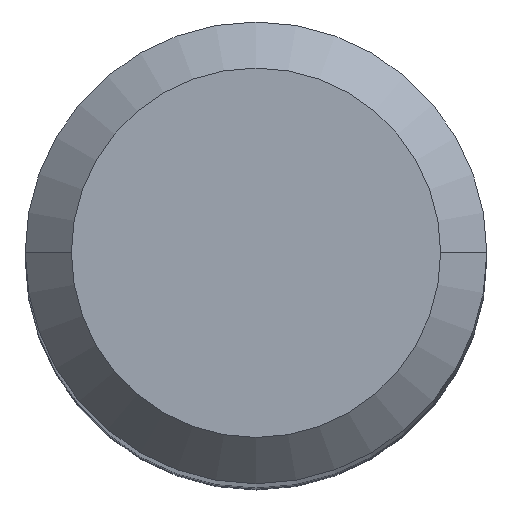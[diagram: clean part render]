
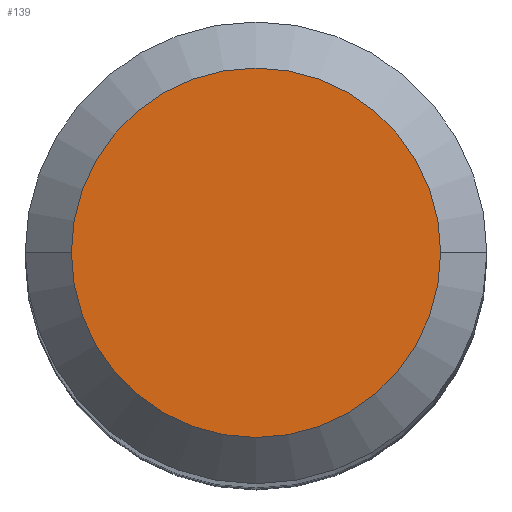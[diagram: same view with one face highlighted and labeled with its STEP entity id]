
A CAD part, top view. The second image highlights one B-rep face of the part: STEP entity #139.
In plain terms, the highlighted planar face has unit normal (0, 0, 1).
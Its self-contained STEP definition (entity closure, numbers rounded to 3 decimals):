
#22 = DIRECTION ( 'NONE',  ( 0., 0., -1. ) ) ;
#33 = ORIENTED_EDGE ( 'NONE', *, *, #121, .F. ) ;
#66 = VERTEX_POINT ( 'NONE', #476 ) ;
#68 = DIRECTION ( 'NONE',  ( 1., 0., 0. ) ) ;
#74 = AXIS2_PLACEMENT_3D ( 'NONE', #551, #596, #247 ) ;
#121 = EDGE_CURVE ( 'NONE', #552, #66, #558, .T. ) ;
#136 = CIRCLE ( 'NONE', #74, 4. ) ;
#139 = ADVANCED_FACE ( 'NONE', ( #227 ), #163, .T. ) ;
#163 = PLANE ( 'NONE',  #443 ) ;
#166 = CARTESIAN_POINT ( 'NONE',  ( 0., 4., 0. ) ) ;
#203 = CARTESIAN_POINT ( 'NONE',  ( -4., 0., 0. ) ) ;
#227 = FACE_OUTER_BOUND ( 'NONE', #619, .T. ) ;
#247 = DIRECTION ( 'NONE',  ( -1., 0., 0. ) ) ;
#288 = AXIS2_PLACEMENT_3D ( 'NONE', #620, #22, #609 ) ;
#308 = ORIENTED_EDGE ( 'NONE', *, *, #486, .F. ) ;
#443 = AXIS2_PLACEMENT_3D ( 'NONE', #166, #603, #68 ) ;
#476 = CARTESIAN_POINT ( 'NONE',  ( 4., 0., 0. ) ) ;
#486 = EDGE_CURVE ( 'NONE', #66, #552, #136, .T. ) ;
#551 = CARTESIAN_POINT ( 'NONE',  ( 0., 0., 0. ) ) ;
#552 = VERTEX_POINT ( 'NONE', #203 ) ;
#558 = CIRCLE ( 'NONE', #288, 4. ) ;
#596 = DIRECTION ( 'NONE',  ( 0., 0., -1. ) ) ;
#603 = DIRECTION ( 'NONE',  ( 0., 0., 1. ) ) ;
#609 = DIRECTION ( 'NONE',  ( -1., 0., 0. ) ) ;
#619 = EDGE_LOOP ( 'NONE', ( #33, #308 ) ) ;
#620 = CARTESIAN_POINT ( 'NONE',  ( 0., 0., 0. ) ) ;
